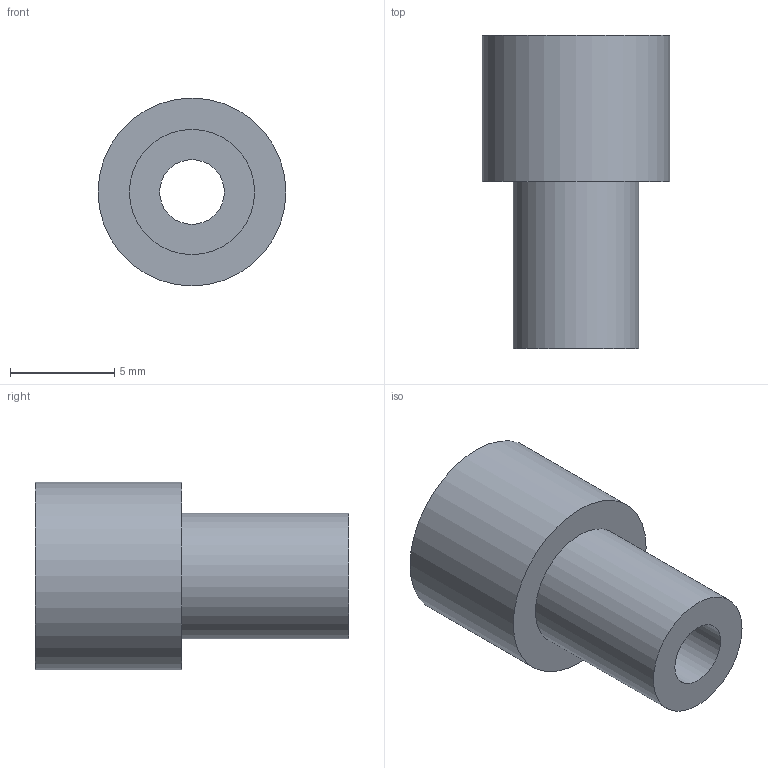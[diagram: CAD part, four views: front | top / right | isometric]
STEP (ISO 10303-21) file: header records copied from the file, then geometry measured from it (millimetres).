
FILE_DESCRIPTION(('FreeCAD Model'),'2;1');
FILE_NAME('Open CASCADE Shape Model','2026-10-30T14:44:39',('FreeCAD'),( 'FreeCAD'),'Open CASCADE STEP processor 7.8','FreeCAD','Unknown');
FILE_SCHEMA(('AUTOMOTIVE_DESIGN { 1 0 10303 214 1 1 1 1 }'));
Length unit declared in the file: millimetre
Products named in the file (1): Open CASCADE STEP translator 7.8 13
Bounding box: 9 x 15 x 9 mm (x, y, z)
Volume: 558.3 mm3; surface area: 606.9 mm2
Topology: 1 solids, 1 shells, 6 faces, 9 edges, 6 vertices
Faces by surface type: cylinder 3, plane 3
Full cylindrical faces by diameter (mm): 3.1 x1, 6 x1, 9 x1
Entity records: 153 total; most frequent: DIRECTION 29, CARTESIAN_POINT 22, ORIENTED_EDGE 18, AXIS2_PLACEMENT_3D 13, FACE_BOUND 9, EDGE_LOOP 9, EDGE_CURVE 9, ADVANCED_FACE 6
